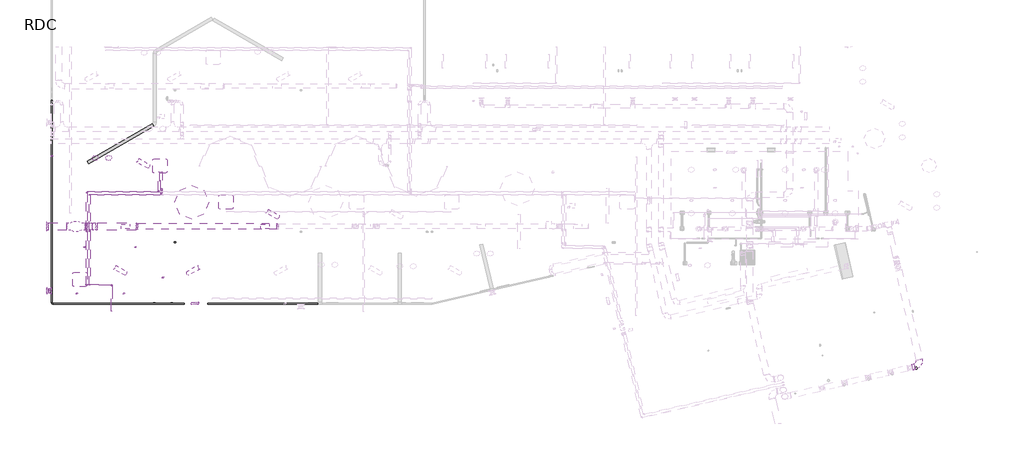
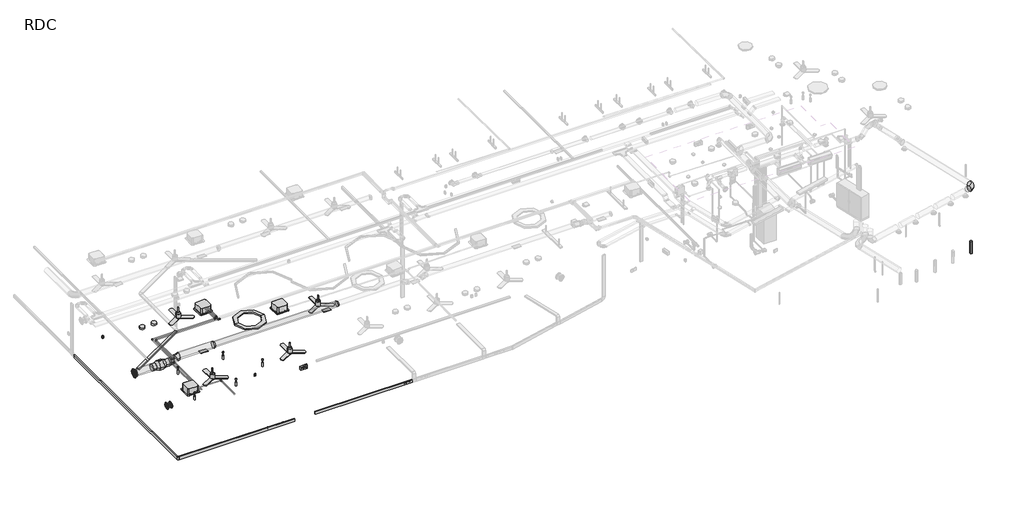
# One storey, part 2 of 15: 16 pipe segments, 12 pipe fittings, 12 proxies, 11 duct segments, 9 light fixtures, 6 duct fittings, 5 air terminals.
"""IFC4 building model written with IfcOpenShell, lengths in millimetres."""

from ifc_helpers import new_model, si_unit, point, frame, frame_2d, origin, place, context, project, spatial, polyline, circle_curve, trimmed, segment, composite_curve, outline, extrude, transform, mapped, element, save
from ifc_brep_helpers import plane_surface, cylinder_surface, advanced_brep
from components import air_terminal_8fbfe4fd, air_terminal_7619dcd8, air_terminal_8d4f6053, air_terminal_300x150_ce1732d7, electrical_fixtures_7208e772, security_devices_b28b6cb9, electrical_fixtures_3a4acf06, mechanical_equipment_63d25aae, mechanical_equipment_4a9d14a3, cassette_600x600_07ba985d, coude_circulaire_1_d_0297107d, coude_circulaire_1_d_81cd51c8, coude_rectangulaire_rayon_1_w_45743452, transformation_ronde_longueur_standard_506f6005, transformation_ronde_longueur_standard_fb525273, light_fixture_1fd30b04, a6_c546ef90, ai_luminaire_concept_s_angle_915ad789, ai_luminaire_spot_downlight_a3_0014797d, standard_8b2a5564, standard_ce3f984b, standard_e7c0512a, standard_a87af493, standard_ff5d54bc, standard_8dba9d94

model = new_model("IFC4")

# Units and contexts
model_context = context("Model", 3, world=origin())
ifc_project = project(units=[si_unit("LENGTHUNIT", "METRE", prefix="MILLI")], contexts=[model_context])

# Site, building, storey
site = spatial("IfcSite", under=ifc_project)
building = spatial("IfcBuilding", under=site)
storey = spatial("IfcBuildingStorey", under=building, Name="RDC", Elevation=0.0)

# Air terminals
placement = place(None, origin())
air_terminal_shape = air_terminal_8fbfe4fd(model_context)
element("IfcAirTerminal", 1, ObjectType="AI_Bouche aération_Circulaire Soufflage : ø200 mm", at=placement, inside=storey, context=model_context, shape_type="MappedRepresentation", body=[
    mapped(air_terminal_shape, transform((6183.0055238, 1677.0835756, 2675.0), x_axis=(0.0, -1.0, 0.0), y_axis=(0.0, 0.0, -1.0), z_axis=(1.0, 0.0, 0.0))),
])
element("IfcAirTerminal", 2, ObjectType="AI_Bouche aération_Circulaire Extraction : ø200 mm", at=placement, inside=storey, context=model_context, shape_type="MappedRepresentation", body=[
    mapped(air_terminal_shape, transform((6363.0055219, 1677.0835759, 2675.0), x_axis=(0.0, 0.0, 1.0), y_axis=(0.0, 1.0, 0.0), z_axis=(-1.0, 0.0, 0.0))),
])
air_terminal_2_shape = air_terminal_7619dcd8(model_context)
air_terminal_3_shape = air_terminal_8d4f6053(model_context)
element("IfcAirTerminal", 3, ObjectType="AI_Bouche aération_Circulaire Reprise : ø315 mm", at=placement, inside=storey, context=model_context, shape_type="MappedRepresentation", body=[
    mapped(air_terminal_2_shape, transform((6183.00552, 4361.9215832, 2675.0), x_axis=(0.0, -1.0, 0.0), y_axis=(0.0, 0.0, -1.0), z_axis=(1.0, 0.0, 0.0))),
    mapped(air_terminal_3_shape, transform((6183.00552, 4361.9215832, 2675.0), x_axis=(0.0, -1.0, 0.0), y_axis=(0.0, 0.0, -1.0), z_axis=(1.0, 0.0, 0.0))),
])
air_terminal_300x150_shape = air_terminal_300x150_ce1732d7(model_context)
element("IfcAirTerminal", 4, ObjectType="AI_Bouche aération_Grille de soufflage rectangulaire sur gaine : 300x150", at=placement, inside=storey, context=model_context, shape_type="MappedRepresentation", body=[
    mapped(air_terminal_300x150_shape, transform((9463.0055142, 4361.9215834, 2642.5), x_axis=(0.0, 1.0, 0.0), y_axis=(-1.0, 0.0, 0.0), z_axis=(0.0, 0.0, 1.0))),
])
element("IfcAirTerminal", 5, ObjectType="AI_Bouche aération_Grille de soufflage rectangulaire sur gaine : 300x150", at=placement, inside=storey, context=model_context, shape_type="MappedRepresentation", body=[
    mapped(air_terminal_300x150_shape, transform((15274.9639686, 4361.9215834, 2675.0), x_axis=(0.0, 1.0, 0.0), y_axis=(-1.0, 0.0, 0.0), z_axis=(0.0, 0.0, 1.0))),
])

# Proxies
electrical_fixtures_shape = electrical_fixtures_7208e772(model_context)
element("IfcBuildingElementProxy", 6, Name="AI_Instal elec_PC 16A +T à 0,30m : PC 16A +T à 0,30m", ObjectType="AI_Instal elec_PC 16A +T à 0,30m : PC 16A +T à 0,30m", at=placement, inside=storey, context=model_context, shape_type="MappedRepresentation", body=[
    mapped(electrical_fixtures_shape, transform((11382.4639686, 1170.0660246, 300.0), x_axis=(1.0, 0.0, 0.0), y_axis=(0.0, 1.0, 0.0), z_axis=(0.0, 0.0, 1.0))),
])
element("IfcBuildingElementProxy", 7, Name="AI_Instal elec_PC 16A +T à 0,30m : PC 16A +T à 0,30m", ObjectType="AI_Instal elec_PC 16A +T à 0,30m : PC 16A +T à 0,30m", at=placement, inside=storey, context=model_context, shape_type="MappedRepresentation", body=[
    mapped(electrical_fixtures_shape, transform((10665.5713393, 1170.0660246, 300.0), x_axis=(1.0, 0.0, 0.0), y_axis=(0.0, 1.0, 0.0), z_axis=(0.0, 0.0, 1.0))),
])
security_devices_shape = security_devices_b28b6cb9(model_context)
element("IfcBuildingElementProxy", 8, Name="AI_Disp secu_Détecteur volumétrique : Presence Detector - 70 x 100 x 70", ObjectType="AI_Disp secu_Détecteur volumétrique : Presence Detector - 70 x 100 x 70", at=placement, inside=storey, context=model_context, shape_type="MappedRepresentation", body=[
    mapped(security_devices_shape, transform((6363.0054851, 7294.4216291, 2600.7684954), x_axis=(0.0, 1.0, 0.0), y_axis=(-1.0, 0.0, 0.0), z_axis=(0.0, 0.0, 1.0))),
])
electrical_fixtures_2_shape = electrical_fixtures_3a4acf06(model_context)
element("IfcBuildingElementProxy", 9, Name="AI_Instal elec_Brasseur d'air : AI_Instal elec_Brasseur d'air", ObjectType="AI_Instal elec_Brasseur d'air : AI_Instal elec_Brasseur d'air", at=placement, inside=storey, context=model_context, shape_type="MappedRepresentation", body=[
    mapped(electrical_fixtures_2_shape, transform((9887.5278798, 7165.3251049, 2500.0), x_axis=(1.0, 0.0, 0.0), y_axis=(0.0, 1.0, 0.0), z_axis=(0.0, 0.0, 1.0))),
])
element("IfcBuildingElementProxy", 10, Name="AI_Instal elec_Brasseur d'air : AI_Instal elec_Brasseur d'air", ObjectType="AI_Instal elec_Brasseur d'air : AI_Instal elec_Brasseur d'air", at=placement, inside=storey, context=model_context, shape_type="MappedRepresentation", body=[
    mapped(electrical_fixtures_2_shape, transform((15280.9709722, 5049.0927, 2500.0), x_axis=(1.0, 0.0, 0.0), y_axis=(0.0, 1.0, 0.0), z_axis=(0.0, 0.0, 1.0))),
])
element("IfcBuildingElementProxy", 11, Name="AI_Instal elec_Brasseur d'air : AI_Instal elec_Brasseur d'air", ObjectType="AI_Instal elec_Brasseur d'air : AI_Instal elec_Brasseur d'air", at=placement, inside=storey, context=model_context, shape_type="MappedRepresentation", body=[
    mapped(electrical_fixtures_2_shape, transform((8935.8051321, 2709.4764678, 2500.0), x_axis=(1.0, 0.0, 0.0), y_axis=(0.0, 1.0, 0.0), z_axis=(0.0, 0.0, 1.0))),
])
element("IfcBuildingElementProxy", 12, Name="AI_Instal elec_Brasseur d'air : AI_Instal elec_Brasseur d'air", ObjectType="AI_Instal elec_Brasseur d'air : AI_Instal elec_Brasseur d'air", at=placement, inside=storey, context=model_context, shape_type="MappedRepresentation", body=[
    mapped(electrical_fixtures_2_shape, transform((12588.3968931, 2709.4764678, 2500.0), x_axis=(1.0, 0.0, 0.0), y_axis=(0.0, 1.0, 0.0), z_axis=(0.0, 0.0, 1.0))),
])
mechanical_equipment_shape = mechanical_equipment_63d25aae(model_context)
element("IfcBuildingElementProxy", 13, Name="AI_Eqpmt genie clim_Canalfast 315 : AI_Eqpmt genie clim_Canalfast 315", ObjectType="AI_Eqpmt genie clim_Canalfast 315 : AI_Eqpmt genie clim_Canalfast 315", at=placement, inside=storey, context=model_context, shape_type="MappedRepresentation", body=[
    mapped(mechanical_equipment_shape, transform((7407.8435011, 4361.9215834, 2675.0), x_axis=(1.0, 0.0, 0.0), y_axis=(0.0, 1.0, 0.0), z_axis=(0.0, 0.0, 1.0))),
])
mechanical_equipment_2_shape = mechanical_equipment_4a9d14a3(model_context)
element("IfcBuildingElementProxy", 14, Name="AI_Eqpmt genie clim_Commande murale Clim : Commande murale Clim", ObjectType="AI_Eqpmt genie clim_Commande murale Clim : Commande murale Clim", at=placement, inside=storey, context=model_context, shape_type="MappedRepresentation", body=[
    mapped(mechanical_equipment_2_shape, transform((11522.9139584, 3719.3027165, 1130.0), x_axis=(-1.0, 0.0, 0.0), y_axis=(0.0, -1.0, 0.0), z_axis=(0.0, 0.0, 1.0))),
])
cassette_600x600_shape = cassette_600x600_07ba985d(model_context)
element("IfcBuildingElementProxy", 15, Name="AI_Eqpmt genie clim_Cassette plafonnière : Cassette 600x600", ObjectType="AI_Eqpmt genie clim_Cassette plafonnière : Cassette 600x600", at=placement, inside=storey, context=model_context, shape_type="MappedRepresentation", body=[
    mapped(cassette_600x600_shape, transform((10031.2527982, 7672.0883435, 2680.0), x_axis=(1.0, 0.0, 0.0), y_axis=(0.0, 1.0, 0.0), z_axis=(0.0, 0.0, 1.0))),
])
element("IfcBuildingElementProxy", 16, Name="AI_Eqpmt genie clim_Cassette plafonnière : Cassette 600x600", ObjectType="AI_Eqpmt genie clim_Cassette plafonnière : Cassette 600x600", at=placement, inside=storey, context=model_context, shape_type="MappedRepresentation", body=[
    mapped(cassette_600x600_shape, transform((12777.2942225, 6159.5368143, 2680.0), x_axis=(1.0, 0.0, 0.0), y_axis=(0.0, 1.0, 0.0), z_axis=(0.0, 0.0, 1.0))),
])
element("IfcBuildingElementProxy", 17, Name="AI_Eqpmt genie clim_Cassette plafonnière : Cassette 600x600", ObjectType="AI_Eqpmt genie clim_Cassette plafonnière : Cassette 600x600", at=placement, inside=storey, context=model_context, shape_type="MappedRepresentation", body=[
    mapped(cassette_600x600_shape, transform((6697.0686705, 2944.9360329, 2680.0), x_axis=(1.0, 0.0, 0.0), y_axis=(0.0, 1.0, 0.0), z_axis=(0.0, 0.0, 1.0))),
])

# Duct fittings
coude_circulaire_1_d_shape = coude_circulaire_1_d_0297107d(model_context)
element("IfcDuctFitting", 18, ObjectType="Coude circulaire : 1 D", at=placement, inside=storey, context=model_context, shape_type="MappedRepresentation", body=[
    mapped(coude_circulaire_1_d_shape, transform((7947.1268185, 4361.9215834, 2675.0), x_axis=(1.0, 0.0, 0.0), y_axis=(0.0, 0.0, 1.0), z_axis=(0.0, -1.0, 0.0))),
])
element("IfcDuctFitting", 19, ObjectType="Coude circulaire : 1 D", at=placement, inside=storey, context=model_context, shape_type="MappedRepresentation", body=[
    mapped(coude_circulaire_1_d_shape, transform((8215.1901835, 4361.9215834, 2800.0), x_axis=(-1.0, 0.0, 0.0), y_axis=(0.0, 0.0, -1.0), z_axis=(0.0, -1.0, 0.0))),
])
coude_circulaire_1_d_2_shape = coude_circulaire_1_d_81cd51c8(model_context)
element("IfcDuctFitting", 20, ObjectType="Coude circulaire : 1 D", at=placement, inside=storey, context=model_context, shape_type="MappedRepresentation", body=[
    mapped(coude_circulaire_1_d_2_shape, transform((42566.1988336, -1417.8776647, 2809.9), x_axis=(0.974484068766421, 0.22445667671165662, 0.0), y_axis=(-0.22445667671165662, 0.974484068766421, 0.0), z_axis=(0.0, 0.0, 1.0))),
])
coude_rectangulaire_rayon_1_w_shape = coude_rectangulaire_rayon_1_w_45743452(model_context)
element("IfcDuctFitting", 21, ObjectType="Coude rectangulaire - Rayon : 1 W", at=placement, inside=storey, context=model_context, shape_type="MappedRepresentation", body=[
    mapped(coude_rectangulaire_rayon_1_w_shape, transform((6388.0102949, 1144.3062992, 300.0), x_axis=(0.0, -1.0, 0.0), y_axis=(1.0, 0.0, 0.0), z_axis=(0.0, 0.0, 1.0))),
])
transformation_ronde_longueur_standard_shape = transformation_ronde_longueur_standard_506f6005(model_context)
element("IfcDuctFitting", 22, ObjectType="Transformation ronde - Longueur : Standard", at=placement, inside=storey, context=model_context, shape_type="MappedRepresentation", body=[
    mapped(transformation_ronde_longueur_standard_shape, transform((9915.1901835, 4361.9215834, 2800.0), x_axis=(1.0, 0.0, 0.0), y_axis=(0.0, 1.0, 0.0), z_axis=(0.0, 0.0, 1.0))),
])
transformation_ronde_longueur_standard_2_shape = transformation_ronde_longueur_standard_fb525273(model_context)
element("IfcDuctFitting", 23, ObjectType="Transformation ronde - Longueur : Standard", at=placement, inside=storey, context=model_context, shape_type="MappedRepresentation", body=[
    mapped(transformation_ronde_longueur_standard_2_shape, transform((15769.7665179, 4361.9215834, 2800.0), x_axis=(1.0, 0.0, 0.0), y_axis=(0.0, 1.0, 0.0), z_axis=(0.0, 0.0, 1.0))),
])

# Duct segments
element("IfcDuctSegment", 24, ObjectType="Circulaire - Té", at=placement, inside=storey, context=model_context, shape_type="SweptSolid", body=[
    extrude(outline(composite_curve([segment(trimmed(circle_curve(frame_2d((4361.9215834, 2675.0)), 157.5), [point((4204.4215834, 2675.0))], [point((4361.9215834, 2832.5))], False, "CARTESIAN"), True, "CONTINUOUS"), segment(trimmed(circle_curve(frame_2d((4361.9215834, 2675.0)), 157.5), [point((4361.9215834, 2832.5))], [point((4519.4215834, 2675.0))], False, "CARTESIAN"), True, "CONTINUOUS"), segment(trimmed(circle_curve(frame_2d((4361.9215834, 2675.0)), 157.5), [point((4519.4215834, 2675.0))], [point((4361.9215834, 2517.5))], False, "CARTESIAN"), True, "CONTINUOUS"), segment(trimmed(circle_curve(frame_2d((4361.9215834, 2675.0)), 157.5), [point((4361.9215834, 2517.5))], [point((4204.4215834, 2675.0))], False, "CARTESIAN"), True, "CONTINUOUS")], self_intersect=False)), frame((7797.8435011, 0.0, 0.0), z_axis=(1.0, 0.0, 0.0), x_axis=(0.0, 1.0, 0.0)), (0.0, 0.0, 1.0), 79.4494986),
])
element("IfcDuctSegment", 25, ObjectType="Circulaire - Té", at=placement, inside=storey, context=model_context, shape_type="SweptSolid", body=[
    extrude(outline(composite_curve([segment(trimmed(circle_curve(frame_2d((4361.9215834, 2800.0)), 125.0), [point((4236.9215834, 2800.0))], [point((4361.9215834, 2925.0))], False, "CARTESIAN"), True, "CONTINUOUS"), segment(trimmed(circle_curve(frame_2d((4361.9215834, 2800.0)), 125.0), [point((4361.9215834, 2925.0))], [point((4486.9215834, 2800.0))], False, "CARTESIAN"), True, "CONTINUOUS"), segment(trimmed(circle_curve(frame_2d((4361.9215834, 2800.0)), 125.0), [point((4486.9215834, 2800.0))], [point((4361.9215834, 2675.0))], False, "CARTESIAN"), True, "CONTINUOUS"), segment(trimmed(circle_curve(frame_2d((4361.9215834, 2800.0)), 125.0), [point((4361.9215834, 2675.0))], [point((4236.9215834, 2800.0))], False, "CARTESIAN"), True, "CONTINUOUS")], self_intersect=False)), frame((9980.1901835, 0.0, 0.0), z_axis=(1.0, 0.0, 0.0), x_axis=(0.0, 1.0, 0.0)), (0.0, 0.0, 1.0), 5789.5763343),
])
element("IfcDuctSegment", 26, ObjectType="Circulaire - Té", at=placement, inside=storey, context=model_context, shape_type="SweptSolid", body=[
    extrude(outline(composite_curve([segment(trimmed(circle_curve(frame_2d((0.0, -125.0)), 125.0), [point((-125.0, -125.0))], [point((0.0, 0.0))], False, "CARTESIAN"), True, "CONTINUOUS"), segment(trimmed(circle_curve(frame_2d((0.0, -125.0)), 125.0), [point((0.0, 0.0))], [point((124.9999999, -125.0))], False, "CARTESIAN"), True, "CONTINUOUS"), segment(trimmed(circle_curve(frame_2d((0.0, -125.0)), 125.0), [point((124.9999999, -125.0))], [point((0.0, -250.0))], False, "CARTESIAN"), True, "CONTINUOUS"), segment(trimmed(circle_curve(frame_2d((0.0, -125.0)), 125.0), [point((0.0, -250.0))], [point((-125.0, -125.0))], False, "CARTESIAN"), True, "CONTINUOUS")], self_intersect=False)), frame((42226.4045195, -1496.1625112, 2684.9), z_axis=(0.9744425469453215, 0.22463686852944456, 0.0), x_axis=(0.22463686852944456, -0.9744425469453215, 0.0)), (0.0, 0.0, 1.0), 98.6040025),
])
element("IfcDuctSegment", 27, ObjectType="Circulaire - Té", at=placement, inside=storey, context=model_context, shape_type="SweptSolid", body=[
    extrude(outline(composite_curve([segment(trimmed(circle_curve(frame_2d((4361.9215834, 2800.0)), 157.5), [point((4519.4215834, 2800.0))], [point((4361.9215834, 2642.5))], False, "CARTESIAN"), True, "CONTINUOUS"), segment(trimmed(circle_curve(frame_2d((4361.9215834, 2800.0)), 157.5), [point((4361.9215834, 2642.5))], [point((4204.4215834, 2800.0))], False, "CARTESIAN"), True, "CONTINUOUS"), segment(trimmed(circle_curve(frame_2d((4361.9215834, 2800.0)), 157.5), [point((4204.4215834, 2800.0))], [point((4361.9215834, 2957.5))], False, "CARTESIAN"), True, "CONTINUOUS"), segment(trimmed(circle_curve(frame_2d((4361.9215834, 2800.0)), 157.5), [point((4361.9215834, 2957.5))], [point((4519.4215834, 2800.0))], False, "CARTESIAN"), True, "CONTINUOUS")], self_intersect=False)), frame((8285.0240022, 0.0, 0.0), z_axis=(1.0, 0.0, 0.0), x_axis=(0.0, 1.0, 0.0)), (0.0, 0.0, 1.0), 1630.1661813),
])
element("IfcDuctSegment", 28, ObjectType="Circulaire - Té", at=placement, inside=storey, context=model_context, shape_type="SweptSolid", body=[
    extrude(outline(composite_curve([segment(trimmed(circle_curve(frame_2d((0.0, 157.5)), 157.5), [point((0.0, 0.0))], [point((-157.5, 157.5))], False, "CARTESIAN"), True, "CONTINUOUS"), segment(trimmed(circle_curve(frame_2d((0.0, 157.5)), 157.5), [point((-157.5, 157.5))], [point((0.0, 315.0))], False, "CARTESIAN"), True, "CONTINUOUS"), segment(trimmed(circle_curve(frame_2d((0.0, 157.5)), 157.5), [point((0.0, 315.0))], [point((157.5, 157.5))], False, "CARTESIAN"), True, "CONTINUOUS"), segment(trimmed(circle_curve(frame_2d((0.0, 157.5)), 157.5), [point((157.5, 157.5))], [point((0.0, 0.0))], False, "CARTESIAN"), True, "CONTINUOUS")], self_intersect=False)), frame((8010.4177522, 4204.4215834, 2704.5130471), z_axis=(0.9063077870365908, 0.0, 0.4226182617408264), x_axis=(0.4226182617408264, 0.0, -0.9063077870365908)), (0.0, 0.0, 1.0), 156.1075604),
])
element("IfcDuctSegment", 29, ObjectType="Circulaire - Té", at=placement, inside=storey, context=model_context, shape_type="SweptSolid", body=[
    extrude(outline(composite_curve([segment(trimmed(circle_curve(frame_2d((0.0, 157.5)), 157.5), [point((-157.5, 157.5))], [point((0.0, 315.0))], False, "CARTESIAN"), True, "CONTINUOUS"), segment(trimmed(circle_curve(frame_2d((0.0, 157.5)), 157.5), [point((0.0, 315.0))], [point((157.5, 157.5))], False, "CARTESIAN"), True, "CONTINUOUS"), segment(trimmed(circle_curve(frame_2d((0.0, 157.5)), 157.5), [point((157.5, 157.5))], [point((0.0, 0.0))], False, "CARTESIAN"), True, "CONTINUOUS"), segment(trimmed(circle_curve(frame_2d((0.0, 157.5)), 157.5), [point((0.0, 0.0))], [point((-157.5, 157.5))], False, "CARTESIAN"), True, "CONTINUOUS")], self_intersect=False)), frame((6269.60552, 4361.9215832, 2517.5), z_axis=(1.0, 2.8701307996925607e-10, 0.0), x_axis=(-2.8701307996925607e-10, 1.0, 0.0)), (0.0, 0.0, 1.0), 748.2379811),
])
element("IfcDuctSegment", 30, ObjectType="Circulaire - Té", at=placement, inside=storey, context=model_context, shape_type="SweptSolid", body=[
    extrude(outline(composite_curve([segment(trimmed(circle_curve(frame_2d((0.0, -100.0)), 100.0), [point((-100.0, -100.0))], [point((0.0, 0.0))], False, "CARTESIAN"), True, "CONTINUOUS"), segment(trimmed(circle_curve(frame_2d((0.0, -100.0)), 100.0), [point((0.0, 0.0))], [point((100.0, -100.0))], False, "CARTESIAN"), True, "CONTINUOUS"), segment(trimmed(circle_curve(frame_2d((0.0, -100.0)), 100.0), [point((100.0, -100.0))], [point((0.0, -200.0))], False, "CARTESIAN"), True, "CONTINUOUS"), segment(trimmed(circle_curve(frame_2d((0.0, -100.0)), 100.0), [point((0.0, -200.0))], [point((-100.0, -100.0))], False, "CARTESIAN"), True, "CONTINUOUS")], self_intersect=False)), frame((6269.6055238, 1677.0835756, 2575.0), z_axis=(0.9999999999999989, 4.8200341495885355e-08, 0.0), x_axis=(4.8200341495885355e-08, -0.9999999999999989, 0.0)), (0.0, 0.0, 1.0), 6.7999982),
])
element("IfcDuctSegment", 31, ObjectType="Goulotte", at=placement, inside=storey, context=model_context, shape_type="SweptSolid", body=[
    extrude(outline(polyline([(6363.0055248, 9604.3027023), (6413.0055248, 9604.3027307), (6413.0102949, 1194.3063134), (6363.0102949, 1194.306285), (6363.0055248, 9604.3027023)])), frame((0.0, 0.0, 235.0), z_axis=(0.0, 0.0, 1.0), x_axis=(1.0, 0.0, 0.0)), (0.0, 0.0, 1.0), 130.0),
])
element("IfcDuctSegment", 32, ObjectType="Goulotte", at=placement, inside=storey, context=model_context, shape_type="SweptSolid", body=[
    extrude(outline(polyline([(6438.0114891, 1119.3062992), (6438.0091008, 1169.3062991), (11905.7934948, 1169.5674687), (11905.795883, 1119.5674688), (6438.0114891, 1119.3062992)])), frame((0.0, 0.0, 235.0), z_axis=(0.0, 0.0, 1.0), x_axis=(1.0, 0.0, 0.0)), (0.0, 0.0, 1.0), 130.0),
])
element("IfcDuctSegment", 33, ObjectType="Goulotte", at=placement, inside=storey, context=model_context, shape_type="SweptSolid", body=[
    extrude(outline(polyline([(17471.629443, 1170.1825349), (17471.6318312, 1120.1825349), (12885.0651156, 1119.9634569), (12885.0627274, 1169.9634568), (17471.629443, 1170.1825349)])), frame((0.0, 0.0, 235.0), z_axis=(0.0, 0.0, 1.0), x_axis=(1.0, 0.0, 0.0)), (0.0, 0.0, 1.0), 130.0),
])
element("IfcDuctSegment", 34, ObjectType="Goulotte", at=placement, inside=storey, context=model_context, shape_type="SweptSolid", body=[
    extrude(outline(polyline([(10577.5832822, 8644.0442419), (10642.5832822, 8531.4609394), (7936.3019901, 6968.9887069), (7871.3019901, 7081.5720094), (10577.5832822, 8644.0442419)])), frame((0.0, 0.0, 651.7942343), z_axis=(0.0, 0.0, 1.0), x_axis=(1.0, 0.0, 0.0)), (0.0, 0.0, 1.0), 50.0),
])

# Light fixtures
light_fixture_shape = light_fixture_1fd30b04(model_context)
element("IfcLightFixture", 35, ObjectType="AI_Luminaire_BAES : Sortie", at=placement, inside=storey, context=model_context, shape_type="MappedRepresentation", body=[
    mapped(light_fixture_shape, transform((12353.3990002, 1159.5964911, 2720.4480749), x_axis=(0.9999999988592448, 4.776515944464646e-05, 0.0), y_axis=(-4.776515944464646e-05, 0.9999999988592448, 0.0), z_axis=(0.0, 0.0, 1.0))),
])
a6_shape = a6_c546ef90(model_context)
element("IfcLightFixture", 36, ObjectType="AI_Luminaire_Circulaire suspendu : A6", at=placement, inside=storey, context=model_context, shape_type="MappedRepresentation", body=[
    mapped(a6_shape, transform((9888.9692432, 3496.1104754, 2980.0), x_axis=(1.0, 0.0, 0.0), y_axis=(0.0, 1.0, 0.0), z_axis=(0.0, 0.0, 1.0))),
])
element("IfcLightFixture", 37, ObjectType="AI_Luminaire_Circulaire suspendu : A6", at=placement, inside=storey, context=model_context, shape_type="MappedRepresentation", body=[
    mapped(a6_shape, transform((11026.491274, 2232.7642721, 2980.0), x_axis=(1.0, 0.0, 0.0), y_axis=(0.0, 1.0, 0.0), z_axis=(0.0, 0.0, 1.0))),
])
element("IfcLightFixture", 38, ObjectType="AI_Luminaire_Circulaire suspendu : A6", at=placement, inside=storey, context=model_context, shape_type="MappedRepresentation", body=[
    mapped(a6_shape, transform((9394.8023278, 1569.3308519, 2980.0), x_axis=(1.0, 0.0, 0.0), y_axis=(0.0, 1.0, 0.0), z_axis=(0.0, 0.0, 1.0))),
])
element("IfcLightFixture", 39, ObjectType="AI_Luminaire_Circulaire suspendu : A6", at=placement, inside=storey, context=model_context, shape_type="MappedRepresentation", body=[
    mapped(a6_shape, transform((7434.8023278, 1569.3308519, 2980.0), x_axis=(1.0, 0.0, 0.0), y_axis=(0.0, 1.0, 0.0), z_axis=(0.0, 0.0, 1.0))),
])
element("IfcLightFixture", 40, ObjectType="AI_Luminaire_Circulaire suspendu : A6", at=placement, inside=storey, context=model_context, shape_type="MappedRepresentation", body=[
    mapped(a6_shape, transform((7760.6037517, 3496.1104754, 2980.0), x_axis=(1.0, 0.0, 0.0), y_axis=(0.0, 1.0, 0.0), z_axis=(0.0, 0.0, 1.0))),
])
ai_luminaire_concept_s_angle_shape = ai_luminaire_concept_s_angle_915ad789(model_context)
element("IfcLightFixture", 41, ObjectType="AI_Luminaire_CONCEPT S_Angle : CONCEPTION O", at=placement, inside=storey, context=model_context, shape_type="MappedRepresentation", body=[
    mapped(ai_luminaire_concept_s_angle_shape, transform((11548.474936, 5369.5203336, 2660.0), x_axis=(1.0, 0.0, 0.0), y_axis=(0.0, 1.0, 0.0), z_axis=(0.0, 0.0, 1.0))),
])
ai_luminaire_spot_downlight_a3_shape = ai_luminaire_spot_downlight_a3_0014797d(model_context)
element("IfcLightFixture", 42, ObjectType="AI_Luminaire_Spot Downlight : A3", at=placement, inside=storey, context=model_context, shape_type="MappedRepresentation", body=[
    mapped(ai_luminaire_spot_downlight_a3_shape, transform((8766.7627271, 7210.6696173, 2600.0), x_axis=(-1.0, 0.0, 0.0), y_axis=(0.0, -1.0, 0.0), z_axis=(0.0, 0.0, 1.0))),
])
element("IfcLightFixture", 43, ObjectType="AI_Luminaire_Spot Downlight : A3", at=placement, inside=storey, context=model_context, shape_type="MappedRepresentation", body=[
    mapped(ai_luminaire_spot_downlight_a3_shape, transform((8203.6847127, 7210.6696173, 2600.0), x_axis=(1.0, 0.0, 0.0), y_axis=(0.0, 1.0, 0.0), z_axis=(0.0, 0.0, 1.0))),
])

# Pipe fittings
standard_shape = standard_8b2a5564(model_context)
element("IfcPipeFitting", 44, ObjectType="Coude - Générique1 : Standard", at=placement, inside=storey, context=model_context, shape_type="MappedRepresentation", body=[
    mapped(standard_shape, transform((8898.6464288, 1931.8886898, 2843.3710932), x_axis=(0.0, 0.9998875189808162, 0.014998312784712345), y_axis=(-0.9998875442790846, -0.00022492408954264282, 0.014994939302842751), z_axis=(0.014996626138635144, -0.014996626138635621, 0.9997750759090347))),
])
standard_2_shape = standard_ce3f984b(model_context)
element("IfcPipeFitting", 45, ObjectType="Coude - Générique1 : Standard", at=placement, inside=storey, context=model_context, shape_type="MappedRepresentation", body=[
    mapped(standard_2_shape, transform((7856.0357757, 5798.285461, 2918.2393066), x_axis=(-0.9999999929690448, -0.00011858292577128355, 0.0), y_axis=(0.00011858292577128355, -0.9999999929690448, 0.0), z_axis=(0.0, 0.0, 1.0))),
])
standard_3_shape = standard_e7c0512a(model_context)
element("IfcPipeFitting", 46, ObjectType="Té - Générique : Standard", at=placement, inside=storey, context=model_context, shape_type="MappedRepresentation", body=[
    mapped(standard_3_shape, transform((10855.5095615, 5798.7615341, 2918.2393066), x_axis=(0.9999999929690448, 0.0001185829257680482, 0.0), y_axis=(0.0001185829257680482, -0.9999999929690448, 0.0), z_axis=(0.0, 0.0, -1.0))),
])
standard_4_shape = standard_a87af493(model_context)
element("IfcPipeFitting", 47, ObjectType="Coude - Générique1 : Standard", at=placement, inside=storey, context=model_context, shape_type="MappedRepresentation", body=[
    mapped(standard_4_shape, transform((10963.0661525, 5904.4973183, 2918.2995), x_axis=(0.0, -1.0, 0.0), y_axis=(0.0, 0.0, -1.0), z_axis=(1.0, 0.0, 0.0))),
])
element("IfcPipeFitting", 48, ObjectType="Coude - Générique1 : Standard", at=placement, inside=storey, context=model_context, shape_type="MappedRepresentation", body=[
    mapped(standard_4_shape, transform((10963.0661525, 5842.8978183, 2856.7), x_axis=(0.0, -0.7071067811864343, -0.7071067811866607), y_axis=(0.0, -0.7071067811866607, 0.7071067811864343), z_axis=(-1.0, 0.0, 0.0))),
])
element("IfcPipeFitting", 49, ObjectType="Coude - Générique1 : Standard", at=placement, inside=storey, context=model_context, shape_type="MappedRepresentation", body=[
    mapped(standard_4_shape, transform((10963.0661525, 5749.5693468, 2856.7), x_axis=(0.0, -1.0, 0.0), y_axis=(0.0, 0.0, 1.0), z_axis=(-1.0, 0.0, 0.0))),
])
standard_5_shape = standard_ff5d54bc(model_context)
element("IfcPipeFitting", 50, ObjectType="Té - Générique : Standard", at=placement, inside=storey, context=model_context, shape_type="MappedRepresentation", body=[
    mapped(standard_5_shape, transform((10963.0661525, 5687.9698468, 2918.2995), x_axis=(1.0, 0.0, 0.0), y_axis=(0.0, -0.7071067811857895, 0.7071067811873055), z_axis=(0.0, -0.7071067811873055, -0.7071067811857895))),
])
standard_6_shape = standard_8dba9d94(model_context)
element("IfcPipeFitting", 51, ObjectType="Coude - Générique1 : Standard", at=placement, inside=storey, context=model_context, shape_type="MappedRepresentation", body=[
    mapped(standard_6_shape, transform((7856.035787, 4172.0075604, 2730.0), x_axis=(0.0, 1.0, 0.0), y_axis=(0.0, 0.0, 1.0), z_axis=(1.0, 0.0, 0.0))),
])
element("IfcPipeFitting", 52, ObjectType="Coude - Générique1 : Standard", at=placement, inside=storey, context=model_context, shape_type="MappedRepresentation", body=[
    mapped(standard_6_shape, transform((7856.035787, 4172.0075604, 2918.2995), x_axis=(0.0, 0.0, 1.0), y_axis=(0.0, 1.0, 0.0), z_axis=(-1.0, 0.0, 0.0))),
])
element("IfcPipeFitting", 53, ObjectType="Coude - Générique1 : Standard", at=placement, inside=storey, context=model_context, shape_type="MappedRepresentation", body=[
    mapped(standard_6_shape, transform((7968.1679437, 4172.0075604, 2730.0), x_axis=(0.0, 1.0, 0.0), y_axis=(0.0, 0.0, 1.0), z_axis=(1.0, 0.0, 0.0))),
])
element("IfcPipeFitting", 54, ObjectType="Coude - Générique1 : Standard", at=placement, inside=storey, context=model_context, shape_type="MappedRepresentation", body=[
    mapped(standard_6_shape, transform((7968.1679437, 5687.9698491, 2918.2995), x_axis=(-1.0, 0.0, 0.0), y_axis=(0.0, -1.0, 0.0), z_axis=(0.0, 0.0, 1.0))),
])
element("IfcPipeFitting", 55, ObjectType="Coude - Générique1 : Standard", at=placement, inside=storey, context=model_context, shape_type="MappedRepresentation", body=[
    mapped(standard_6_shape, transform((7968.1679437, 4172.0075604, 2918.2995), x_axis=(0.0, 0.0, 1.0), y_axis=(0.0, 1.0, 0.0), z_axis=(-1.0, 0.0, 0.0))),
])

# Pipe segments
element("IfcPipeSegment", 56, ObjectType="Acier - Té", at=placement, inside=storey, context=model_context, shape_type="SweptSolid", body=[
    extrude(outline(composite_curve([segment(trimmed(circle_curve(frame_2d((0.0, 21.082)), 21.082), [point((-21.082, 21.082))], [point((0.0, 42.164))], False, "CARTESIAN"), True, "CONTINUOUS"), segment(trimmed(circle_curve(frame_2d((0.0, 21.082)), 21.082), [point((0.0, 42.164))], [point((21.0819999, 21.082))], False, "CARTESIAN"), True, "CONTINUOUS"), segment(trimmed(circle_curve(frame_2d((0.0, 21.082)), 21.082), [point((21.0819999, 21.082))], [point((0.0, 0.0))], False, "CARTESIAN"), True, "CONTINUOUS"), segment(trimmed(circle_curve(frame_2d((0.0, 21.082)), 21.082), [point((0.0, 0.0))], [point((-21.082, 21.082))], False, "CARTESIAN"), True, "CONTINUOUS")], self_intersect=False)), frame((7888.0357755, 5798.2892557, 2897.1573066), z_axis=(0.9999999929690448, 0.00011858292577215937, 0.0), x_axis=(-0.00011858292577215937, 0.9999999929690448, 0.0)), (0.0, 0.0, 1.0), 2919.4738211),
])
element("IfcPipeSegment", 57, ObjectType="Acier - Té", at=placement, inside=storey, context=model_context, shape_type="SweptSolid", body=[
    extrude(outline(composite_curve([segment(trimmed(circle_curve(frame_2d((2730.0, 7856.035787)), 21.082), [point((2730.0, 7834.953787))], [point((2708.918, 7856.035787))], False, "CARTESIAN"), True, "CONTINUOUS"), segment(trimmed(circle_curve(frame_2d((2730.0, 7856.035787)), 21.082), [point((2708.918, 7856.035787))], [point((2730.0, 7877.117787))], False, "CARTESIAN"), True, "CONTINUOUS"), segment(trimmed(circle_curve(frame_2d((2730.0, 7856.035787)), 21.082), [point((2730.0, 7877.117787))], [point((2751.082, 7856.035787))], False, "CARTESIAN"), True, "CONTINUOUS"), segment(trimmed(circle_curve(frame_2d((2730.0, 7856.035787)), 21.082), [point((2751.082, 7856.035787))], [point((2730.0, 7834.953787))], False, "CARTESIAN"), True, "CONTINUOUS")], self_intersect=False)), frame((0.0, 1904.9195522, 0.0), z_axis=(0.0, 1.0, 0.0), x_axis=(0.0, 0.0, 1.0)), (0.0, 0.0, 1.0), 2235.0880082),
])
element("IfcPipeSegment", 58, ObjectType="Acier - Té", at=placement, inside=storey, context=model_context, shape_type="AdvancedBrep", body=[
    advanced_brep(
    [(8000.1679437, 5666.8878491, 2918.2995), (8000.1679437, 5687.9698491, 2939.3815), (8000.1679438, 5709.0518491, 2918.2995), (8000.1679437, 5687.9698491, 2897.2175), (10915.0661524, 5666.8878468, 2918.2995), (10915.0661525, 5687.9698468, 2897.2175), (10915.0661525, 5709.0518468, 2918.2995), (10915.0661525, 5687.9698468, 2939.3815)],
    [
        (0, 1, circle_curve(frame((8000.1679437, 5687.9698491, 2918.2995), z_axis=(-1.0, 0.0, 0.0), x_axis=(0.0, -1.0, 0.0)), 21.082)),
        (1, 2, circle_curve(frame((8000.1679437, 5687.9698491, 2918.2995), z_axis=(-1.0, 0.0, 0.0), x_axis=(0.0, -1.0, 0.0)), 21.082)),
        (2, 3, circle_curve(frame((8000.1679438, 5687.9698491, 2918.2995), z_axis=(-1.0, 0.0, 0.0), x_axis=(0.0, -1.0, 0.0)), 21.082)),
        (3, 0, circle_curve(frame((8000.1679437, 5687.9698491, 2918.2995), z_axis=(-1.0, 0.0, 0.0), x_axis=(0.0, -1.0, 0.0)), 21.082)),
        (4, 5, circle_curve(frame((10915.0661524, 5687.9698491, 2918.2995), z_axis=(1.0, 0.0, 0.0), x_axis=(0.0, -1.0, 0.0)), 21.0820022)),
        (5, 6, circle_curve(frame((10915.0661525, 5687.9698491, 2918.2995), z_axis=(1.0, 0.0, 0.0), x_axis=(0.0, -1.0, 0.0)), 21.082)),
        (6, 7, circle_curve(frame((10915.0661525, 5687.9698491, 2918.2995), z_axis=(1.0, 0.0, 0.0), x_axis=(0.0, -1.0, 0.0)), 21.0819978)),
        (7, 4, circle_curve(frame((10915.0661525, 5687.9698491, 2918.2995), z_axis=(1.0, 0.0, 0.0), x_axis=(0.0, -1.0, 0.0)), 21.082)),
        (0, 4),
        (7, 1),
        (6, 2),
        (5, 3),
    ],
    [
        plane_surface(frame((8000.1679437, 5687.9698491, 2897.2175), z_axis=(-1.0, 7.706013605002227e-10, 0.0), x_axis=(7.706013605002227e-10, 1.0, 0.0))),
        plane_surface(frame((10915.0661525, 5687.9698468, 2897.2175), z_axis=(1.0, -7.705978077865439e-10, 0.0), x_axis=(7.705978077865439e-10, 1.0, 0.0))),
        cylinder_surface(frame((8000.1679437, 5687.9698491, 2918.2995), z_axis=(-1.0, 0.0, 0.0), x_axis=(0.0, -1.0, 0.0)), 21.082),
    ],
    [
        (0, [[1, 2, 3, 4]]),
        (1, [[5, 6, 7, 8]]),
        (2, [[-1, 9, -8, 10]]),
        (2, [[-2, -10, -7, 11]]),
        (2, [[-3, -11, -6, 12]]),
        (2, [[-4, -12, -5, -9]]),
    ],
),
])
element("IfcPipeSegment", 59, ObjectType="Acier - Té", at=placement, inside=storey, context=model_context, shape_type="SweptSolid", body=[
    extrude(outline(composite_curve([segment(trimmed(circle_curve(frame_2d((2730.0, 7968.1679437)), 21.082), [point((2730.0, 7947.0859437))], [point((2708.918, 7968.1679437))], False, "CARTESIAN"), True, "CONTINUOUS"), segment(trimmed(circle_curve(frame_2d((2730.0, 7968.1679437)), 21.082), [point((2708.918, 7968.1679437))], [point((2730.0, 7989.2499437))], False, "CARTESIAN"), True, "CONTINUOUS"), segment(trimmed(circle_curve(frame_2d((2730.0, 7968.1679437)), 21.082), [point((2730.0, 7989.2499437))], [point((2751.082, 7968.1679437))], False, "CARTESIAN"), True, "CONTINUOUS"), segment(trimmed(circle_curve(frame_2d((2730.0, 7968.1679437)), 21.082), [point((2751.082, 7968.1679437))], [point((2730.0, 7947.0859437))], False, "CARTESIAN"), True, "CONTINUOUS")], self_intersect=False)), frame((0.0, 1904.9195522, 0.0), z_axis=(0.0, 1.0, 0.0), x_axis=(0.0, 0.0, 1.0)), (0.0, 0.0, 1.0), 2235.0880082),
])
element("IfcPipeSegment", 60, ObjectType="Acier - Té", at=placement, inside=storey, context=model_context, shape_type="SweptSolid", body=[
    extrude(outline(composite_curve([segment(trimmed(circle_curve(frame_2d((2918.2393066, 10855.5095615)), 21.082), [point((2918.2393066, 10876.5915615))], [point((2939.3213066, 10855.5095615))], False, "CARTESIAN"), True, "CONTINUOUS"), segment(trimmed(circle_curve(frame_2d((2918.2393066, 10855.5095615)), 21.082), [point((2939.3213066, 10855.5095615))], [point((2918.2393066, 10834.4275615))], False, "CARTESIAN"), True, "CONTINUOUS"), segment(trimmed(circle_curve(frame_2d((2918.2393066, 10855.5095615)), 21.082), [point((2918.2393066, 10834.4275615))], [point((2897.1573066, 10855.5095615))], False, "CARTESIAN"), True, "CONTINUOUS"), segment(trimmed(circle_curve(frame_2d((2918.2393066, 10855.5095615)), 21.082), [point((2897.1573066, 10855.5095615))], [point((2918.2393066, 10876.5915615))], False, "CARTESIAN"), True, "CONTINUOUS")], self_intersect=False)), frame((0.0, 5846.7615341, 0.0), z_axis=(0.0, 1.0, 0.0), x_axis=(0.0, 0.0, 1.0)), (0.0, 0.0, 1.0), 785.3103287),
])
element("IfcPipeSegment", 61, ObjectType="Acier - Té", at=placement, inside=storey, context=model_context, shape_type="SweptSolid", body=[
    extrude(outline(composite_curve([segment(trimmed(circle_curve(frame_2d((2918.2995, 10963.0661525)), 21.082), [point((2918.2995, 10941.9841525))], [point((2897.2175, 10963.0661525))], False, "CARTESIAN"), True, "CONTINUOUS"), segment(trimmed(circle_curve(frame_2d((2918.2995, 10963.0661525)), 21.082), [point((2897.2175, 10963.0661525))], [point((2918.2995, 10984.1481525))], False, "CARTESIAN"), True, "CONTINUOUS"), segment(trimmed(circle_curve(frame_2d((2918.2995, 10963.0661525)), 21.082), [point((2918.2995, 10984.1481525))], [point((2939.3815, 10963.0661525))], False, "CARTESIAN"), True, "CONTINUOUS"), segment(trimmed(circle_curve(frame_2d((2918.2995, 10963.0661525)), 21.082), [point((2939.3815, 10963.0661525))], [point((2918.2995, 10941.9841525))], False, "CARTESIAN"), True, "CONTINUOUS")], self_intersect=False)), frame((0.0, 5936.4973183, 0.0), z_axis=(0.0, 1.0, 0.0), x_axis=(0.0, 0.0, 1.0)), (0.0, 0.0, 1.0), 695.5745445),
])
element("IfcPipeSegment", 62, ObjectType="Acier - Té", at=placement, inside=storey, context=model_context, shape_type="SweptSolid", body=[
    extrude(outline(composite_curve([segment(trimmed(circle_curve(frame_2d((0.0, -21.0820001)), 21.082), [point((-21.082, -21.0820001))], [point((0.0, 0.0))], False, "CARTESIAN"), True, "CONTINUOUS"), segment(trimmed(circle_curve(frame_2d((0.0, -21.0820001)), 21.082), [point((0.0, 0.0))], [point((21.082, -21.0820001))], False, "CARTESIAN"), True, "CONTINUOUS"), segment(trimmed(circle_curve(frame_2d((0.0, -21.0820001)), 21.082), [point((21.082, -21.0820001))], [point((0.0, -42.164))], False, "CARTESIAN"), True, "CONTINUOUS"), segment(trimmed(circle_curve(frame_2d((0.0, -21.0820001)), 21.082), [point((0.0, -42.164))], [point((-21.082, -21.0820001))], False, "CARTESIAN"), True, "CONTINUOUS")], self_intersect=False)), frame((10963.0661525, 5880.4324605, 2864.4201918), z_axis=(0.0, 0.7071067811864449, 0.7071067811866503), x_axis=(1.0, 0.0, 0.0)), (0.0, 0.0, 1.0), 23.1148483),
])
element("IfcPipeSegment", 63, ObjectType="Acier - Té", at=placement, inside=storey, context=model_context, shape_type="SweptSolid", body=[
    extrude(outline(composite_curve([segment(trimmed(circle_curve(frame_2d((2856.7, 10963.0661525)), 21.082), [point((2856.7, 10941.9841525))], [point((2835.618, 10963.0661525))], False, "CARTESIAN"), True, "CONTINUOUS"), segment(trimmed(circle_curve(frame_2d((2856.7, 10963.0661525)), 21.082), [point((2835.618, 10963.0661525))], [point((2856.7, 10984.1481525))], False, "CARTESIAN"), True, "CONTINUOUS"), segment(trimmed(circle_curve(frame_2d((2856.7, 10963.0661525)), 21.082), [point((2856.7, 10984.1481525))], [point((2877.782, 10963.0661525))], False, "CARTESIAN"), True, "CONTINUOUS"), segment(trimmed(circle_curve(frame_2d((2856.7, 10963.0661525)), 21.082), [point((2877.782, 10963.0661525))], [point((2856.7, 10941.9841525))], False, "CARTESIAN"), True, "CONTINUOUS")], self_intersect=False)), frame((0.0, 5781.5693468, 0.0), z_axis=(0.0, 1.0, 0.0), x_axis=(0.0, 0.0, 1.0)), (0.0, 0.0, 1.0), 29.3284715),
])
element("IfcPipeSegment", 64, ObjectType="Acier - Té", at=placement, inside=storey, context=model_context, shape_type="SweptSolid", body=[
    extrude(outline(composite_curve([segment(trimmed(circle_curve(frame_2d((0.0, 21.0820001)), 21.082), [point((-21.082, 21.0820001))], [point((0.0, 42.1640001))], False, "CARTESIAN"), True, "CONTINUOUS"), segment(trimmed(circle_curve(frame_2d((0.0, 21.0820001)), 21.082), [point((0.0, 42.1640001))], [point((21.082, 21.0820001))], False, "CARTESIAN"), True, "CONTINUOUS"), segment(trimmed(circle_curve(frame_2d((0.0, 21.0820001)), 21.082), [point((21.082, 21.0820001))], [point((0.0, 0.0))], False, "CARTESIAN"), True, "CONTINUOUS"), segment(trimmed(circle_curve(frame_2d((0.0, 21.0820001)), 21.082), [point((0.0, 0.0))], [point((-21.082, 21.0820001))], False, "CARTESIAN"), True, "CONTINUOUS")], self_intersect=False)), frame((10963.0661525, 5712.0347046, 2864.4201918), z_axis=(0.0, -0.707106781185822, 0.7071067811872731), x_axis=(1.0, 0.0, 0.0)), (0.0, 0.0, 1.0), 7.1148483),
])
element("IfcPipeSegment", 65, ObjectType="Acier - Té", at=placement, inside=storey, context=model_context, shape_type="SweptSolid", body=[
    extrude(outline(composite_curve([segment(trimmed(circle_curve(frame_2d((2918.2995, 7968.1679437)), 21.082), [point((2918.2995, 7947.0859437))], [point((2897.2175, 7968.1679437))], False, "CARTESIAN"), True, "CONTINUOUS"), segment(trimmed(circle_curve(frame_2d((2918.2995, 7968.1679437)), 21.082), [point((2897.2175, 7968.1679437))], [point((2918.2995, 7989.2499437))], False, "CARTESIAN"), True, "CONTINUOUS"), segment(trimmed(circle_curve(frame_2d((2918.2995, 7968.1679437)), 21.082), [point((2918.2995, 7989.2499437))], [point((2939.3815, 7968.1679437))], False, "CARTESIAN"), True, "CONTINUOUS"), segment(trimmed(circle_curve(frame_2d((2918.2995, 7968.1679437)), 21.082), [point((2939.3815, 7968.1679437))], [point((2918.2995, 7947.0859437))], False, "CARTESIAN"), True, "CONTINUOUS")], self_intersect=False)), frame((0.0, 4204.0075604, 0.0), z_axis=(0.0, 1.0, 0.0), x_axis=(0.0, 0.0, 1.0)), (0.0, 0.0, 1.0), 1451.9622887),
])
element("IfcPipeSegment", 66, ObjectType="Acier - Té", at=placement, inside=storey, context=model_context, shape_type="SweptSolid", body=[
    extrude(outline(composite_curve([segment(trimmed(circle_curve(frame_2d((2918.2393066, 7856.0357757)), 21.082), [point((2918.2393066, 7834.9537757))], [point((2897.1573066, 7856.0357757))], False, "CARTESIAN"), True, "CONTINUOUS"), segment(trimmed(circle_curve(frame_2d((2918.2393066, 7856.0357757)), 21.082), [point((2897.1573066, 7856.0357757))], [point((2918.2393066, 7877.1177757))], False, "CARTESIAN"), True, "CONTINUOUS"), segment(trimmed(circle_curve(frame_2d((2918.2393066, 7856.0357757)), 21.082), [point((2918.2393066, 7877.1177757))], [point((2939.3213066, 7856.0357757))], False, "CARTESIAN"), True, "CONTINUOUS"), segment(trimmed(circle_curve(frame_2d((2918.2393066, 7856.0357757)), 21.082), [point((2939.3213066, 7856.0357757))], [point((2918.2393066, 7834.9537757))], False, "CARTESIAN"), True, "CONTINUOUS")], self_intersect=False)), frame((0.0, 4204.0075604, 0.0), z_axis=(0.0, 1.0, 0.0), x_axis=(0.0, 0.0, 1.0)), (0.0, 0.0, 1.0), 1562.2779006),
])
element("IfcPipeSegment", 67, ObjectType="Acier - Té", at=placement, inside=storey, context=model_context, shape_type="SweptSolid", body=[
    extrude(outline(composite_curve([segment(trimmed(circle_curve(frame_2d((0.0, -21.082)), 21.082), [point((-21.082, -21.082))], [point((0.0, 0.0))], False, "CARTESIAN"), True, "CONTINUOUS"), segment(trimmed(circle_curve(frame_2d((0.0, -21.082)), 21.082), [point((0.0, 0.0))], [point((21.082, -21.082))], False, "CARTESIAN"), True, "CONTINUOUS"), segment(trimmed(circle_curve(frame_2d((0.0, -21.082)), 21.082), [point((21.082, -21.082))], [point((0.0, -42.1640001))], False, "CARTESIAN"), True, "CONTINUOUS"), segment(trimmed(circle_curve(frame_2d((0.0, -21.082)), 21.082), [point((0.0, -42.1640001))], [point((-21.082, -21.082))], False, "CARTESIAN"), True, "CONTINUOUS")], self_intersect=False)), frame((8898.6464288, 819.9559688, 2805.6077308), z_axis=(0.0, 0.9998875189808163, 0.014998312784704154), x_axis=(1.0, 0.0, 0.0)), (0.0, 0.0, 1.0), 1080.3740365),
])
element("IfcPipeSegment", 68, ObjectType="Acier - Té", at=placement, inside=storey, context=model_context, shape_type="SweptSolid", body=[
    extrude(outline(composite_curve([segment(trimmed(circle_curve(frame_2d((0.0, -21.082)), 21.082), [point((0.0, -42.164))], [point((-21.0819999, -21.082))], False, "CARTESIAN"), True, "CONTINUOUS"), segment(trimmed(circle_curve(frame_2d((0.0, -21.082)), 21.082), [point((-21.0819999, -21.082))], [point((0.0, 0.0))], False, "CARTESIAN"), True, "CONTINUOUS"), segment(trimmed(circle_curve(frame_2d((0.0, -21.082)), 21.082), [point((0.0, 0.0))], [point((21.082, -21.082))], False, "CARTESIAN"), True, "CONTINUOUS"), segment(trimmed(circle_curve(frame_2d((0.0, -21.082)), 21.082), [point((21.082, -21.082))], [point((0.0, -42.164))], False, "CARTESIAN"), True, "CONTINUOUS")], self_intersect=False)), frame((8866.6500282, 1952.9706898, 2843.8510392), z_axis=(-0.9998875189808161, 0.0, 0.01499831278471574), x_axis=(0.01499831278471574, 0.0, 0.9998875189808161)), (0.0, 0.0, 1.0), 1051.7987817),
])
element("IfcPipeSegment", 69, ObjectType="Acier - Té", at=placement, inside=storey, context=model_context, shape_type="SweptSolid", body=[
    extrude(outline(composite_curve([segment(trimmed(circle_curve(frame_2d((7856.035787, 4172.0075604)), 21.082), [point((7834.953787, 4172.0075604))], [point((7856.035787, 4193.0895604))], False, "CARTESIAN"), True, "CONTINUOUS"), segment(trimmed(circle_curve(frame_2d((7856.035787, 4172.0075604)), 21.082), [point((7856.035787, 4193.0895604))], [point((7877.117787, 4172.0075604))], False, "CARTESIAN"), True, "CONTINUOUS"), segment(trimmed(circle_curve(frame_2d((7856.035787, 4172.0075604)), 21.082), [point((7877.117787, 4172.0075604))], [point((7856.035787, 4150.9255604))], False, "CARTESIAN"), True, "CONTINUOUS"), segment(trimmed(circle_curve(frame_2d((7856.035787, 4172.0075604)), 21.082), [point((7856.035787, 4150.9255604))], [point((7834.953787, 4172.0075604))], False, "CARTESIAN"), True, "CONTINUOUS")], self_intersect=False)), frame((0.0, 0.0, 2762.0), z_axis=(0.0, 0.0, 1.0), x_axis=(1.0, 0.0, 0.0)), (0.0, 0.0, 1.0), 124.2995),
])
element("IfcPipeSegment", 70, ObjectType="Acier - Té", at=placement, inside=storey, context=model_context, shape_type="SweptSolid", body=[
    extrude(outline(composite_curve([segment(trimmed(circle_curve(frame_2d((7968.1679437, 4172.0075604)), 21.082), [point((7947.0859437, 4172.0075604))], [point((7968.1679437, 4193.0895604))], False, "CARTESIAN"), True, "CONTINUOUS"), segment(trimmed(circle_curve(frame_2d((7968.1679437, 4172.0075604)), 21.082), [point((7968.1679437, 4193.0895604))], [point((7989.2499437, 4172.0075604))], False, "CARTESIAN"), True, "CONTINUOUS"), segment(trimmed(circle_curve(frame_2d((7968.1679437, 4172.0075604)), 21.082), [point((7989.2499437, 4172.0075604))], [point((7968.1679437, 4150.9255604))], False, "CARTESIAN"), True, "CONTINUOUS"), segment(trimmed(circle_curve(frame_2d((7968.1679437, 4172.0075604)), 21.082), [point((7968.1679437, 4150.9255604))], [point((7947.0859437, 4172.0075604))], False, "CARTESIAN"), True, "CONTINUOUS")], self_intersect=False)), frame((0.0, 0.0, 2762.0), z_axis=(0.0, 0.0, 1.0), x_axis=(1.0, 0.0, 0.0)), (0.0, 0.0, 1.0), 124.2995),
])
element("IfcPipeSegment", 71, ObjectType="PVC", at=placement, inside=storey, context=model_context, shape_type="SweptSolid", body=[
    extrude(outline(composite_curve([segment(trimmed(circle_curve(frame_2d((0.0, 50.0)), 50.0), [point((-50.0000001, 50.0000004))], [point((3e-07, 100.0))], False, "CARTESIAN"), True, "CONTINUOUS"), segment(trimmed(circle_curve(frame_2d((0.0, 50.0)), 50.0), [point((3e-07, 100.0))], [point((50.0, 49.9999997))], False, "CARTESIAN"), True, "CONTINUOUS"), segment(trimmed(circle_curve(frame_2d((0.0, 50.0)), 50.0), [point((50.0, 49.9999997))], [point((-4e-07, 0.0))], False, "CARTESIAN"), True, "CONTINUOUS"), segment(trimmed(circle_curve(frame_2d((0.0, 50.0)), 50.0), [point((-4e-07, 0.0))], [point((-50.0000001, 50.0000004))], False, "CARTESIAN"), True, "CONTINUOUS")], self_intersect=False)), frame((42372.6521741, -1587.6882367, -395.3252664), z_axis=(5.066331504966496e-05, -0.00014627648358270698, 0.9999999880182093), x_axis=(0.9999999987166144, 7.410851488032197e-09, -5.0663314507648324e-05)), (0.0, 0.0, 1.0), 599.1766486),
])

save(model, "model.ifc")
